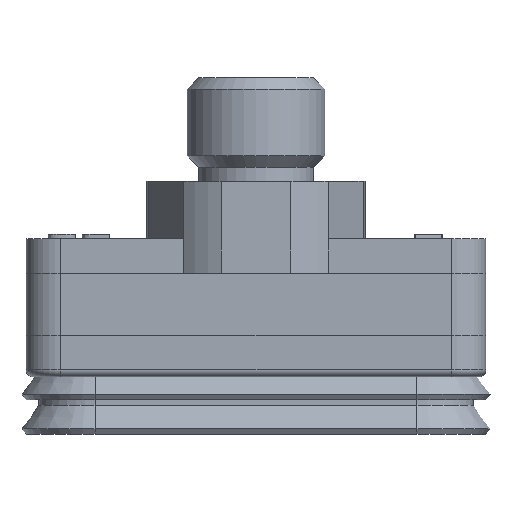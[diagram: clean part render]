
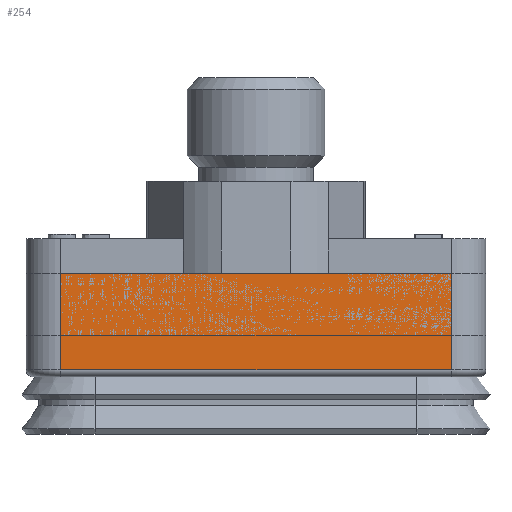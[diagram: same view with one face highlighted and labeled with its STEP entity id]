
A CAD part, front view. The second image highlights one B-rep face of the part: STEP entity #254.
In plain terms, the highlighted planar face has unit normal (0, -1, 0).
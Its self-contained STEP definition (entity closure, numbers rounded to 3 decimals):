
#254 = ADVANCED_FACE( '', ( #598 ), #599, .T. );
#598 = FACE_OUTER_BOUND( '', #1038, .T. );
#599 = PLANE( '', #1039 );
#1038 = EDGE_LOOP( '', ( #1854, #1855, #1856, #1857 ) );
#1039 = AXIS2_PLACEMENT_3D( '', #1858, #1859, #1860 );
#1854 = ORIENTED_EDGE( '', *, *, #3051, .F. );
#1855 = ORIENTED_EDGE( '', *, *, #3118, .T. );
#1856 = ORIENTED_EDGE( '', *, *, #3119, .T. );
#1857 = ORIENTED_EDGE( '', *, *, #2946, .F. );
#1858 = CARTESIAN_POINT( '', ( -8.5, -3.5, -4.5 ) );
#1859 = DIRECTION( '', ( 0., -1., 0. ) );
#1860 = DIRECTION( '', ( 0., 0., -1. ) );
#2946 = EDGE_CURVE( '', #3516, #3518, #3519, .T. );
#3051 = EDGE_CURVE( '', #3440, #3516, #3706, .T. );
#3118 = EDGE_CURVE( '', #3440, #3801, #3802, .T. );
#3119 = EDGE_CURVE( '', #3801, #3518, #3803, .T. );
#3440 = VERTEX_POINT( '', #4368 );
#3516 = VERTEX_POINT( '', #4474 );
#3518 = VERTEX_POINT( '', #4476 );
#3519 = LINE( '', #4477, #4478 );
#3706 = LINE( '', #5013, #5014 );
#3801 = VERTEX_POINT( '', #5225 );
#3802 = LINE( '', #5226, #5227 );
#3803 = LINE( '', #5228, #5229 );
#4368 = CARTESIAN_POINT( '', ( -8.5, -3.5, -4.2 ) );
#4474 = CARTESIAN_POINT( '', ( -8.5, -3.5, 0. ) );
#4476 = CARTESIAN_POINT( '', ( 8.5, -3.5, 0. ) );
#4477 = CARTESIAN_POINT( '', ( -8.5, -3.5, 0. ) );
#4478 = VECTOR( '', #5862, 1000. );
#5013 = CARTESIAN_POINT( '', ( -8.5, -3.5, -4.5 ) );
#5014 = VECTOR( '', #5956, 1000. );
#5225 = CARTESIAN_POINT( '', ( 8.5, -3.5, -4.2 ) );
#5226 = CARTESIAN_POINT( '', ( 8.5, -3.5, -4.2 ) );
#5227 = VECTOR( '', #6004, 1000. );
#5228 = CARTESIAN_POINT( '', ( 8.5, -3.5, -4.5 ) );
#5229 = VECTOR( '', #6005, 1000. );
#5862 = DIRECTION( '', ( 1., 0., 0. ) );
#5956 = DIRECTION( '', ( 0., 0., 1. ) );
#6004 = DIRECTION( '', ( 1., 0., 0. ) );
#6005 = DIRECTION( '', ( 0., 0., 1. ) );
